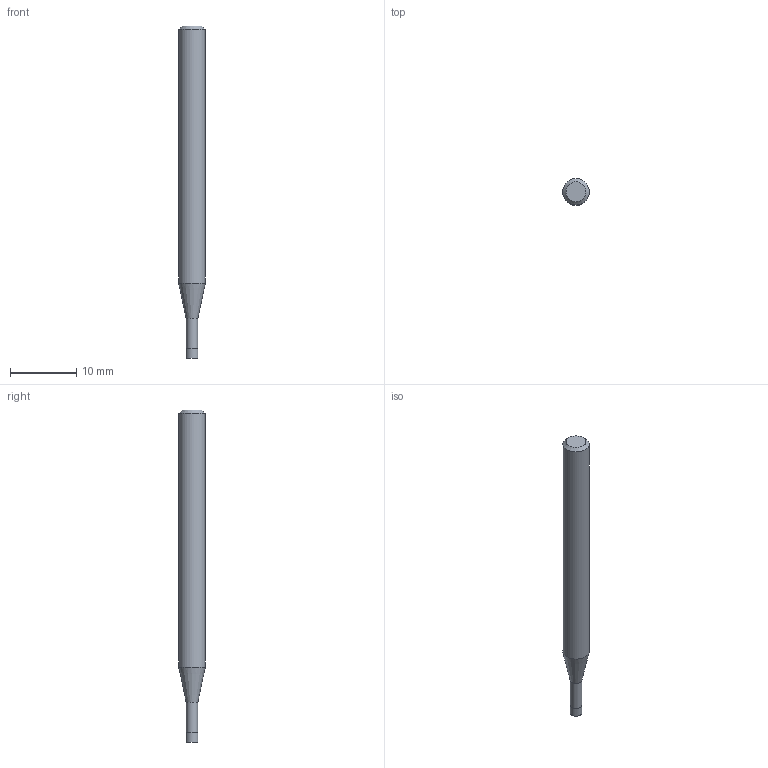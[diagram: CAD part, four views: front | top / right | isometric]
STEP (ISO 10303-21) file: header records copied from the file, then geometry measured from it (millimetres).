
FILE_DESCRIPTION((''),'2;1');
FILE_NAME('C:\Users\nsx150\AppData\Local\Temp\Mastercam 2021\RJ5U8K7RMU\TEMP.step','2021-04-21T16:41:52',(''),(''),'STEP Write','Mastercam 2021 ... CNC Software, Inc.','');
FILE_SCHEMA(('AUTOMOTIVE_DESIGN'));
Length unit declared in the file: millimetre
Products named in the file (1): None
Bounding box: 4 x 4 x 50 mm (x, y, z)
Volume: 535.7 mm3; surface area: 584.5 mm2
Topology: 2 solids, 2 shells, 9 faces, 12 edges, 7 vertices
Faces by surface type: plane 4, cylinder 3, cone 2
Full cylindrical faces by diameter (mm): 1.75 x1, 1.8 x1, 4 x1
Entity records: 211 total; most frequent: DIRECTION 36, CARTESIAN_POINT 25, AXIS2_PLACEMENT_3D 18, ORIENTED_EDGE 14, EDGE_LOOP 14, STYLED_ITEM 12, ADVANCED_FACE 9, FACE_BOUND 8
